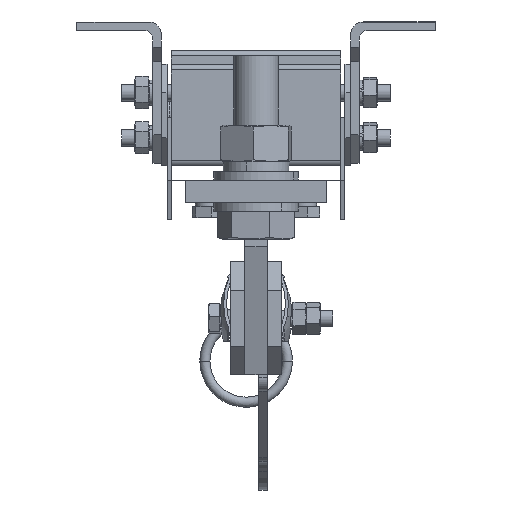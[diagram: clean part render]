
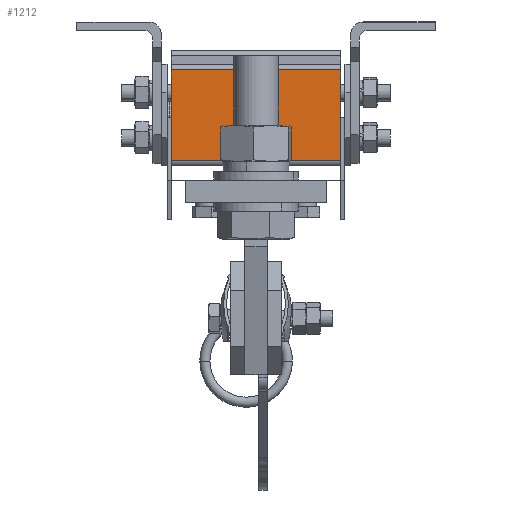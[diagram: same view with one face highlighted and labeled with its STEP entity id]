
A CAD part, front view. The second image highlights one B-rep face of the part: STEP entity #1212.
In plain terms, the highlighted planar face has unit normal (0, -1, 0).
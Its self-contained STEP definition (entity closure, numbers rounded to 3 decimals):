
#1197 = VERTEX_POINT ( 'NONE', #7176 ) ;
#1212 = ADVANCED_FACE ( 'NONE', ( #7207 ), #7266, .F. ) ;
#1213 = EDGE_LOOP ( 'NONE', ( #1224, #5049, #2287, #2290 ) ) ;
#1224 = ORIENTED_EDGE ( 'NONE', *, *, #5046, .T. ) ;
#1279 = EDGE_CURVE ( 'NONE', #21453, #1197, #7362, .T. ) ;
#2274 = EDGE_CURVE ( 'NONE', #5048, #2291, #9244, .T. ) ;
#2281 = EDGE_CURVE ( 'NONE', #21453, #2291, #9236, .T. ) ;
#2287 = ORIENTED_EDGE ( 'NONE', *, *, #2281, .F. ) ;
#2290 = ORIENTED_EDGE ( 'NONE', *, *, #1279, .T. ) ;
#2291 = VERTEX_POINT ( 'NONE', #9281 ) ;
#5046 = EDGE_CURVE ( 'NONE', #1197, #5048, #14720, .T. ) ;
#5048 = VERTEX_POINT ( 'NONE', #14755 ) ;
#5049 = ORIENTED_EDGE ( 'NONE', *, *, #2274, .T. ) ;
#7176 = CARTESIAN_POINT ( 'NONE',  ( -30., -95., 16. ) ) ;
#7207 = FACE_OUTER_BOUND ( 'NONE', #1213, .T. ) ;
#7260 = DIRECTION ( 'NONE',  ( 0., 0., 1. ) ) ;
#7261 = DIRECTION ( 'NONE',  ( 0., 1., 0. ) ) ;
#7266 = PLANE ( 'NONE',  #7271 ) ;
#7271 = AXIS2_PLACEMENT_3D ( 'NONE', #7272, #7261, #7260 ) ;
#7272 = CARTESIAN_POINT ( 'NONE',  ( 30., -95., 23. ) ) ;
#7361 = CARTESIAN_POINT ( 'NONE',  ( 30., -95., 16. ) ) ;
#7362 = LINE ( 'NONE', #7361, #7416 ) ;
#7415 = DIRECTION ( 'NONE',  ( -1., 0., 0. ) ) ;
#7416 = VECTOR ( 'NONE', #7415, 1000. ) ;
#9228 = VECTOR ( 'NONE', #9242, 1000. ) ;
#9235 = CARTESIAN_POINT ( 'NONE',  ( 30., -95., 23. ) ) ;
#9236 = LINE ( 'NONE', #9235, #9286 ) ;
#9242 = DIRECTION ( 'NONE',  ( 1., 0., 0. ) ) ;
#9243 = CARTESIAN_POINT ( 'NONE',  ( 30., -95., -16. ) ) ;
#9244 = LINE ( 'NONE', #9243, #9228 ) ;
#9281 = CARTESIAN_POINT ( 'NONE',  ( 30., -95., -16. ) ) ;
#9285 = DIRECTION ( 'NONE',  ( 0., 0., -1. ) ) ;
#9286 = VECTOR ( 'NONE', #9285, 1000. ) ;
#14719 = CARTESIAN_POINT ( 'NONE',  ( -30., -95., 23. ) ) ;
#14720 = LINE ( 'NONE', #14719, #14752 ) ;
#14751 = DIRECTION ( 'NONE',  ( 0., 0., -1. ) ) ;
#14752 = VECTOR ( 'NONE', #14751, 1000. ) ;
#14755 = CARTESIAN_POINT ( 'NONE',  ( -30., -95., -16. ) ) ;
#16457 = CARTESIAN_POINT ( 'NONE',  ( 30., -95., 16. ) ) ;
#21453 = VERTEX_POINT ( 'NONE', #16457 ) ;
